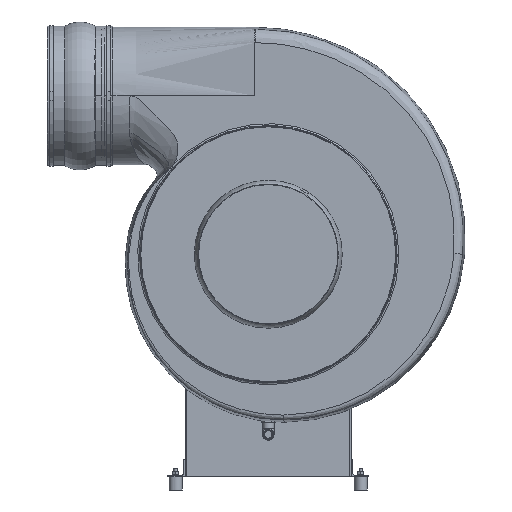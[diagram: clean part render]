
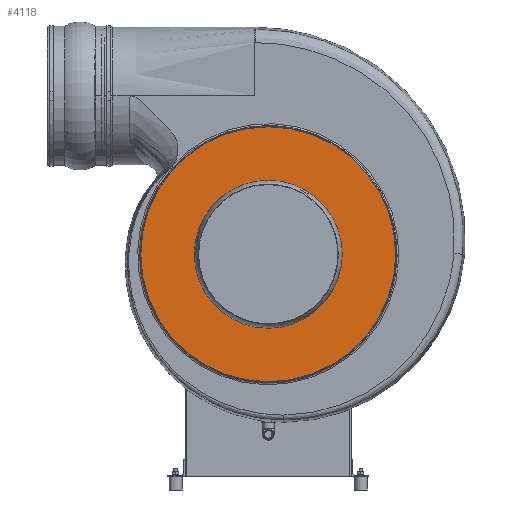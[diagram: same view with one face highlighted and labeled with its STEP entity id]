
A CAD part, front view. The second image highlights one B-rep face of the part: STEP entity #4118.
In plain terms, the highlighted planar face has unit normal (0, -1, 0).
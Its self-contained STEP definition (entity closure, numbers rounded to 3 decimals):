
#4118 = ADVANCED_FACE( '', ( #8200, #8201 ), #8202, .F. );
#8200 = FACE_OUTER_BOUND( '', #26906, .T. );
#8201 = FACE_BOUND( '', #26907, .T. );
#8202 = PLANE( '', #26908 );
#26906 = EDGE_LOOP( '', ( #36459 ) );
#26907 = EDGE_LOOP( '', ( #36460 ) );
#26908 = AXIS2_PLACEMENT_3D( '', #36461, #36462, #36463 );
#36459 = ORIENTED_EDGE( '', *, *, #42389, .T. );
#36460 = ORIENTED_EDGE( '', *, *, #39556, .T. );
#36461 = CARTESIAN_POINT( '', ( 0., 0., 0. ) );
#36462 = DIRECTION( '', ( 0., 1., 0. ) );
#36463 = DIRECTION( '', ( 0., 0., 1. ) );
#39556 = EDGE_CURVE( '', #43539, #43539, #43540, .T. );
#42389 = EDGE_CURVE( '', #47761, #47761, #47762, .F. );
#43539 = VERTEX_POINT( '', #49544 );
#43540 = CIRCLE( '', #49545, 157.75 );
#47761 = VERTEX_POINT( '', #58218 );
#47762 = CIRCLE( '', #58219, 292. );
#49544 = CARTESIAN_POINT( '', ( 157.75, 0., 0. ) );
#49545 = AXIS2_PLACEMENT_3D( '', #59449, #59450, #59451 );
#58218 = CARTESIAN_POINT( '', ( 0., 0., 292. ) );
#58219 = AXIS2_PLACEMENT_3D( '', #62668, #62669, #62670 );
#59449 = CARTESIAN_POINT( '', ( 0., 0., 0. ) );
#59450 = DIRECTION( '', ( 0., 1., 0. ) );
#59451 = DIRECTION( '', ( 1., 0., 0. ) );
#62668 = CARTESIAN_POINT( '', ( 0., 0., 0. ) );
#62669 = DIRECTION( '', ( 0., 1., 0. ) );
#62670 = DIRECTION( '', ( 0., 0., 1. ) );
